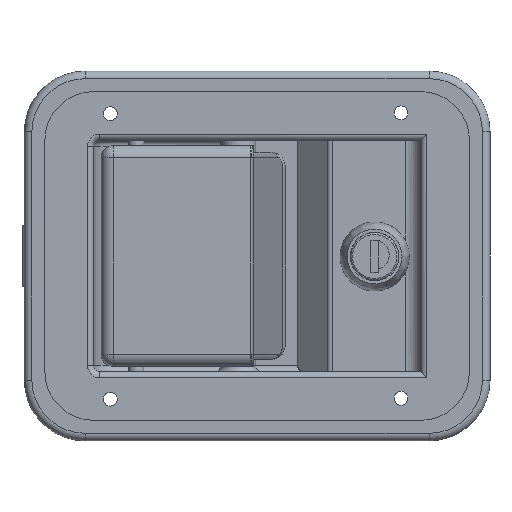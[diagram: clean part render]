
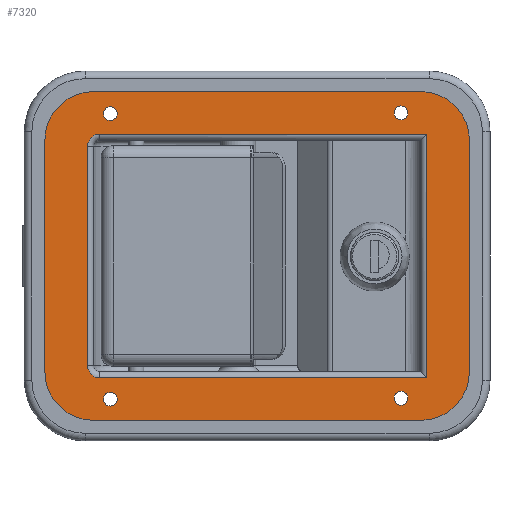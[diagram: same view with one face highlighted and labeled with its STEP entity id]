
A CAD part, top view. The second image highlights one B-rep face of the part: STEP entity #7320.
In plain terms, the highlighted planar face has unit normal (0, 0, 1).
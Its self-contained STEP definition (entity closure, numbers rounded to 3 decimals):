
#100=FACE_BOUND('',#2191,.T.);
#101=FACE_BOUND('',#2192,.T.);
#102=FACE_BOUND('',#2193,.T.);
#103=FACE_BOUND('',#2194,.T.);
#104=FACE_BOUND('',#2195,.T.);
#175=PLANE('',#7903);
#310=LINE('',#11893,#885);
#314=LINE('',#11905,#889);
#366=LINE('',#12066,#941);
#369=LINE('',#12074,#944);
#506=LINE('',#12697,#1081);
#507=LINE('',#12701,#1082);
#508=LINE('',#12703,#1083);
#509=LINE('',#12704,#1084);
#885=VECTOR('',#8599,10.);
#889=VECTOR('',#8611,10.);
#941=VECTOR('',#8771,10.);
#944=VECTOR('',#8780,10.);
#1081=VECTOR('',#9193,10.);
#1082=VECTOR('',#9196,10.);
#1083=VECTOR('',#9197,10.);
#1084=VECTOR('',#9198,10.);
#1752=FACE_OUTER_BOUND('',#2190,.T.);
#2190=EDGE_LOOP('',(#5269,#5270,#5271,#5272,#5273,#5274,#5275,#5276));
#2191=EDGE_LOOP('',(#5277));
#2192=EDGE_LOOP('',(#5278));
#2193=EDGE_LOOP('',(#5279));
#2194=EDGE_LOOP('',(#5280));
#2195=EDGE_LOOP('',(#5281,#5282,#5283,#5284,#5285,#5286));
#2571=CIRCLE('',#7707,16.);
#2573=CIRCLE('',#7711,16.);
#2603=CIRCLE('',#7769,16.);
#2604=CIRCLE('',#7772,16.);
#2666=CIRCLE('',#7904,2.25);
#2667=CIRCLE('',#7905,2.25);
#2668=CIRCLE('',#7906,2.25);
#2669=CIRCLE('',#7907,2.25);
#2670=CIRCLE('',#7908,4.);
#2671=CIRCLE('',#7909,4.);
#3035=VERTEX_POINT('',#11883);
#3036=VERTEX_POINT('',#11884);
#3039=VERTEX_POINT('',#11892);
#3041=VERTEX_POINT('',#11898);
#3043=VERTEX_POINT('',#11904);
#3098=VERTEX_POINT('',#12065);
#3099=VERTEX_POINT('',#12069);
#3100=VERTEX_POINT('',#12073);
#3236=VERTEX_POINT('',#12685);
#3237=VERTEX_POINT('',#12687);
#3238=VERTEX_POINT('',#12689);
#3239=VERTEX_POINT('',#12691);
#3240=VERTEX_POINT('',#12693);
#3241=VERTEX_POINT('',#12694);
#3242=VERTEX_POINT('',#12696);
#3243=VERTEX_POINT('',#12698);
#3244=VERTEX_POINT('',#12700);
#3245=VERTEX_POINT('',#12702);
#3689=EDGE_CURVE('',#3035,#3036,#2571,.T.);
#3693=EDGE_CURVE('',#3039,#3035,#310,.T.);
#3696=EDGE_CURVE('',#3041,#3039,#2573,.T.);
#3699=EDGE_CURVE('',#3043,#3041,#314,.T.);
#3779=EDGE_CURVE('',#3036,#3098,#366,.T.);
#3781=EDGE_CURVE('',#3098,#3099,#2603,.T.);
#3783=EDGE_CURVE('',#3099,#3100,#369,.T.);
#3785=EDGE_CURVE('',#3100,#3043,#2604,.T.);
#3992=EDGE_CURVE('',#3236,#3236,#2666,.T.);
#3993=EDGE_CURVE('',#3237,#3237,#2667,.T.);
#3994=EDGE_CURVE('',#3238,#3238,#2668,.T.);
#3995=EDGE_CURVE('',#3239,#3239,#2669,.T.);
#3996=EDGE_CURVE('',#3240,#3241,#2670,.T.);
#3997=EDGE_CURVE('',#3242,#3240,#506,.T.);
#3998=EDGE_CURVE('',#3243,#3242,#2671,.T.);
#3999=EDGE_CURVE('',#3244,#3243,#507,.T.);
#4000=EDGE_CURVE('',#3245,#3244,#508,.T.);
#4001=EDGE_CURVE('',#3241,#3245,#509,.T.);
#5269=ORIENTED_EDGE('',*,*,#3783,.T.);
#5270=ORIENTED_EDGE('',*,*,#3785,.T.);
#5271=ORIENTED_EDGE('',*,*,#3699,.T.);
#5272=ORIENTED_EDGE('',*,*,#3696,.T.);
#5273=ORIENTED_EDGE('',*,*,#3693,.T.);
#5274=ORIENTED_EDGE('',*,*,#3689,.T.);
#5275=ORIENTED_EDGE('',*,*,#3779,.T.);
#5276=ORIENTED_EDGE('',*,*,#3781,.T.);
#5277=ORIENTED_EDGE('',*,*,#3992,.T.);
#5278=ORIENTED_EDGE('',*,*,#3993,.T.);
#5279=ORIENTED_EDGE('',*,*,#3994,.T.);
#5280=ORIENTED_EDGE('',*,*,#3995,.T.);
#5281=ORIENTED_EDGE('',*,*,#3996,.F.);
#5282=ORIENTED_EDGE('',*,*,#3997,.F.);
#5283=ORIENTED_EDGE('',*,*,#3998,.F.);
#5284=ORIENTED_EDGE('',*,*,#3999,.F.);
#5285=ORIENTED_EDGE('',*,*,#4000,.F.);
#5286=ORIENTED_EDGE('',*,*,#4001,.F.);
#7320=ADVANCED_FACE('',(#1752,#100,#101,#102,#103,#104),#175,.T.);
#7707=AXIS2_PLACEMENT_3D('',#11885,#8591,#8592);
#7711=AXIS2_PLACEMENT_3D('',#11899,#8604,#8605);
#7769=AXIS2_PLACEMENT_3D('',#12070,#8775,#8776);
#7772=AXIS2_PLACEMENT_3D('',#12077,#8784,#8785);
#7903=AXIS2_PLACEMENT_3D('',#12684,#9181,#9182);
#7904=AXIS2_PLACEMENT_3D('',#12686,#9183,#9184);
#7905=AXIS2_PLACEMENT_3D('',#12688,#9185,#9186);
#7906=AXIS2_PLACEMENT_3D('',#12690,#9187,#9188);
#7907=AXIS2_PLACEMENT_3D('',#12692,#9189,#9190);
#7908=AXIS2_PLACEMENT_3D('',#12695,#9191,#9192);
#7909=AXIS2_PLACEMENT_3D('',#12699,#9194,#9195);
#8591=DIRECTION('center_axis',(0.,0.,1.));
#8592=DIRECTION('ref_axis',(0.,-1.,0.));
#8599=DIRECTION('',(1.,0.,0.));
#8604=DIRECTION('center_axis',(0.,0.,1.));
#8605=DIRECTION('ref_axis',(-1.,0.,0.));
#8611=DIRECTION('',(0.,-1.,0.));
#8771=DIRECTION('',(0.,1.,0.));
#8775=DIRECTION('center_axis',(0.,0.,1.));
#8776=DIRECTION('ref_axis',(1.,0.,0.));
#8780=DIRECTION('',(-1.,0.,0.));
#8784=DIRECTION('center_axis',(0.,0.,1.));
#8785=DIRECTION('ref_axis',(0.,1.,0.));
#9181=DIRECTION('center_axis',(0.,0.,1.));
#9182=DIRECTION('ref_axis',(1.,0.,0.));
#9183=DIRECTION('center_axis',(0.,0.,-1.));
#9184=DIRECTION('ref_axis',(-1.,0.,0.));
#9185=DIRECTION('center_axis',(0.,0.,-1.));
#9186=DIRECTION('ref_axis',(-1.,0.,0.));
#9187=DIRECTION('center_axis',(0.,0.,-1.));
#9188=DIRECTION('ref_axis',(-1.,0.,0.));
#9189=DIRECTION('center_axis',(0.,0.,-1.));
#9190=DIRECTION('ref_axis',(-1.,0.,0.));
#9191=DIRECTION('center_axis',(0.,0.,1.));
#9192=DIRECTION('ref_axis',(-0.707,-0.707,0.));
#9193=DIRECTION('',(0.,-1.,0.));
#9194=DIRECTION('center_axis',(0.,0.,1.));
#9195=DIRECTION('ref_axis',(-0.707,0.707,0.));
#9196=DIRECTION('',(-1.,0.,0.));
#9197=DIRECTION('',(0.,1.,0.));
#9198=DIRECTION('',(1.,0.,0.));
#11883=CARTESIAN_POINT('',(53.75,-54.,0.));
#11884=CARTESIAN_POINT('',(69.75,-38.,0.));
#11885=CARTESIAN_POINT('Origin',(53.75,-38.,0.));
#11892=CARTESIAN_POINT('',(-53.75,-54.,0.));
#11893=CARTESIAN_POINT('',(-53.75,-54.,0.));
#11898=CARTESIAN_POINT('',(-69.75,-38.,0.));
#11899=CARTESIAN_POINT('Origin',(-53.75,-38.,0.));
#11904=CARTESIAN_POINT('',(-69.75,38.,0.));
#11905=CARTESIAN_POINT('',(-69.75,38.,0.));
#12065=CARTESIAN_POINT('',(69.75,38.,0.));
#12066=CARTESIAN_POINT('',(69.75,-38.,0.));
#12069=CARTESIAN_POINT('',(53.75,54.,0.));
#12070=CARTESIAN_POINT('Origin',(53.75,38.,0.));
#12073=CARTESIAN_POINT('',(-53.75,54.,0.));
#12074=CARTESIAN_POINT('',(53.75,54.,0.));
#12077=CARTESIAN_POINT('Origin',(-53.75,38.,0.));
#12684=CARTESIAN_POINT('Origin',(0.,0.,
0.));
#12685=CARTESIAN_POINT('',(49.5,-46.75,0.));
#12686=CARTESIAN_POINT('Origin',(47.25,-46.75,0.));
#12687=CARTESIAN_POINT('',(-46.,46.75,0.));
#12688=CARTESIAN_POINT('Origin',(-48.25,46.75,0.));
#12689=CARTESIAN_POINT('',(49.5,47.05,0.));
#12690=CARTESIAN_POINT('Origin',(47.25,47.05,0.));
#12691=CARTESIAN_POINT('',(-46.,-47.05,0.));
#12692=CARTESIAN_POINT('Origin',(-48.25,-47.05,0.));
#12693=CARTESIAN_POINT('',(-55.75,-36.,0.));
#12694=CARTESIAN_POINT('',(-51.75,-40.,0.));
#12695=CARTESIAN_POINT('Origin',(-51.75,-36.,0.));
#12696=CARTESIAN_POINT('',(-55.75,36.,0.));
#12697=CARTESIAN_POINT('',(-55.75,-19.,0.));
#12698=CARTESIAN_POINT('',(-51.75,40.,0.));
#12699=CARTESIAN_POINT('Origin',(-51.75,36.,0.));
#12700=CARTESIAN_POINT('',(55.75,40.,0.));
#12701=CARTESIAN_POINT('',(-0.152,40.,0.));
#12702=CARTESIAN_POINT('',(55.75,-40.,0.));
#12703=CARTESIAN_POINT('',(55.75,-19.,0.));
#12704=CARTESIAN_POINT('',(-0.152,-40.,0.));
